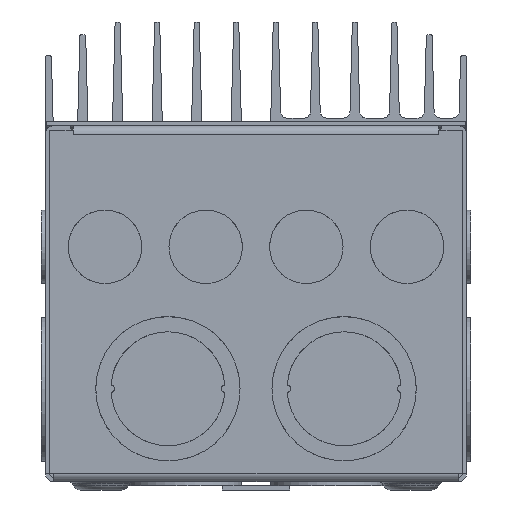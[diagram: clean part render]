
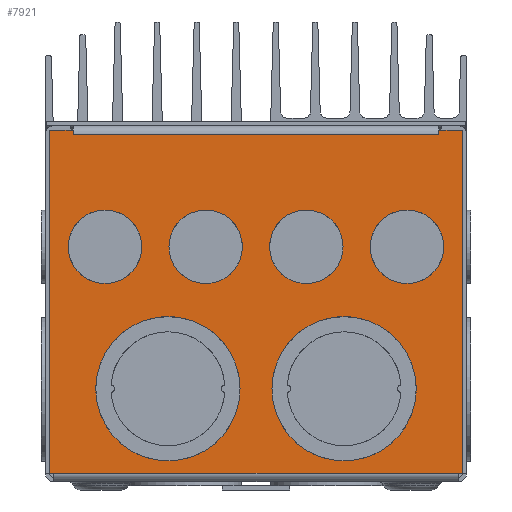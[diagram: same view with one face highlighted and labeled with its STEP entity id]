
A CAD part, front view. The second image highlights one B-rep face of the part: STEP entity #7921.
In plain terms, the highlighted planar face has unit normal (0, -1, 0).
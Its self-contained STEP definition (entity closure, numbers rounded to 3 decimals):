
#116=PLANE('',#8573);
#414=CIRCLE('',#8574,21.844);
#415=CIRCLE('',#8575,21.844);
#416=CIRCLE('',#8576,11.113);
#417=CIRCLE('',#8577,11.113);
#418=CIRCLE('',#8578,11.113);
#419=CIRCLE('',#8579,11.113);
#1165=ORIENTED_EDGE('',*,*,#3413,.F.);
#1166=ORIENTED_EDGE('',*,*,#3414,.F.);
#1167=ORIENTED_EDGE('',*,*,#3415,.F.);
#1168=ORIENTED_EDGE('',*,*,#3416,.T.);
#1169=ORIENTED_EDGE('',*,*,#3417,.T.);
#1170=ORIENTED_EDGE('',*,*,#3418,.T.);
#1171=ORIENTED_EDGE('',*,*,#3419,.T.);
#1172=ORIENTED_EDGE('',*,*,#3420,.T.);
#1173=ORIENTED_EDGE('',*,*,#3421,.T.);
#1174=ORIENTED_EDGE('',*,*,#3422,.T.);
#1175=ORIENTED_EDGE('',*,*,#3423,.T.);
#1176=ORIENTED_EDGE('',*,*,#3424,.F.);
#1177=ORIENTED_EDGE('',*,*,#3425,.F.);
#1178=ORIENTED_EDGE('',*,*,#3426,.T.);
#1179=ORIENTED_EDGE('',*,*,#3427,.T.);
#1180=ORIENTED_EDGE('',*,*,#3428,.T.);
#1181=ORIENTED_EDGE('',*,*,#3429,.F.);
#1182=ORIENTED_EDGE('',*,*,#3430,.T.);
#3413=EDGE_CURVE('',#4540,#4540,#414,.T.);
#3414=EDGE_CURVE('',#4541,#4541,#415,.T.);
#3415=EDGE_CURVE('',#4542,#4543,#5219,.T.);
#3416=EDGE_CURVE('',#4542,#4544,#5220,.T.);
#3417=EDGE_CURVE('',#4544,#4545,#5221,.T.);
#3418=EDGE_CURVE('',#4545,#4546,#5222,.T.);
#3419=EDGE_CURVE('',#4546,#4547,#5223,.T.);
#3420=EDGE_CURVE('',#4547,#4548,#5224,.T.);
#3421=EDGE_CURVE('',#4548,#4549,#5225,.T.);
#3422=EDGE_CURVE('',#4549,#4550,#5226,.T.);
#3423=EDGE_CURVE('',#4550,#4551,#5227,.T.);
#3424=EDGE_CURVE('',#4552,#4551,#5228,.T.);
#3425=EDGE_CURVE('',#4553,#4552,#5229,.T.);
#3426=EDGE_CURVE('',#4553,#4543,#5230,.T.);
#3427=EDGE_CURVE('',#4554,#4554,#416,.T.);
#3428=EDGE_CURVE('',#4555,#4555,#417,.T.);
#3429=EDGE_CURVE('',#4556,#4556,#418,.T.);
#3430=EDGE_CURVE('',#4557,#4557,#419,.T.);
#4540=VERTEX_POINT('',#12734);
#4541=VERTEX_POINT('',#12736);
#4542=VERTEX_POINT('',#12738);
#4543=VERTEX_POINT('',#12739);
#4544=VERTEX_POINT('',#12741);
#4545=VERTEX_POINT('',#12743);
#4546=VERTEX_POINT('',#12745);
#4547=VERTEX_POINT('',#12747);
#4548=VERTEX_POINT('',#12749);
#4549=VERTEX_POINT('',#12751);
#4550=VERTEX_POINT('',#12753);
#4551=VERTEX_POINT('',#12755);
#4552=VERTEX_POINT('',#12757);
#4553=VERTEX_POINT('',#12759);
#4554=VERTEX_POINT('',#12762);
#4555=VERTEX_POINT('',#12764);
#4556=VERTEX_POINT('',#12766);
#4557=VERTEX_POINT('',#12768);
#5219=LINE('',#12737,#5826);
#5220=LINE('',#12740,#5827);
#5221=LINE('',#12742,#5828);
#5222=LINE('',#12744,#5829);
#5223=LINE('',#12746,#5830);
#5224=LINE('',#12748,#5831);
#5225=LINE('',#12750,#5832);
#5226=LINE('',#12752,#5833);
#5227=LINE('',#12754,#5834);
#5228=LINE('',#12756,#5835);
#5229=LINE('',#12758,#5836);
#5230=LINE('',#12760,#5837);
#5826=VECTOR('',#9895,1000.);
#5827=VECTOR('',#9896,1000.);
#5828=VECTOR('',#9897,1000.);
#5829=VECTOR('',#9898,1000.);
#5830=VECTOR('',#9899,1000.);
#5831=VECTOR('',#9900,1000.);
#5832=VECTOR('',#9901,1000.);
#5833=VECTOR('',#9902,1000.);
#5834=VECTOR('',#9903,1000.);
#5835=VECTOR('',#9904,1000.);
#5836=VECTOR('',#9905,1000.);
#5837=VECTOR('',#9906,1000.);
#6422=EDGE_LOOP('',(#1165));
#6423=EDGE_LOOP('',(#1166));
#6424=EDGE_LOOP('',(#1167,#1168,#1169,#1170,#1171,#1172,#1173,#1174,#1175,
#1176,#1177,#1178));
#6425=EDGE_LOOP('',(#1179));
#6426=EDGE_LOOP('',(#1180));
#6427=EDGE_LOOP('',(#1181));
#6428=EDGE_LOOP('',(#1182));
#7091=FACE_BOUND('',#6422,.T.);
#7092=FACE_BOUND('',#6423,.T.);
#7093=FACE_BOUND('',#6424,.T.);
#7094=FACE_BOUND('',#6425,.T.);
#7095=FACE_BOUND('',#6426,.T.);
#7096=FACE_BOUND('',#6427,.T.);
#7097=FACE_BOUND('',#6428,.T.);
#7921=ADVANCED_FACE('',(#7091,#7092,#7093,#7094,#7095,#7096,#7097),#116,
 .F.);
#8573=AXIS2_PLACEMENT_3D('',#12732,#9889,#9890);
#8574=AXIS2_PLACEMENT_3D('',#12733,#9891,#9892);
#8575=AXIS2_PLACEMENT_3D('',#12735,#9893,#9894);
#8576=AXIS2_PLACEMENT_3D('',#12761,#9907,#9908);
#8577=AXIS2_PLACEMENT_3D('',#12763,#9909,#9910);
#8578=AXIS2_PLACEMENT_3D('',#12765,#9911,#9912);
#8579=AXIS2_PLACEMENT_3D('',#12767,#9913,#9914);
#9889=DIRECTION('',(0.,1.,0.));
#9890=DIRECTION('',(0.,0.,1.));
#9891=DIRECTION('',(0.,-1.,0.));
#9892=DIRECTION('',(1.,0.,0.));
#9893=DIRECTION('',(0.,-1.,0.));
#9894=DIRECTION('',(1.,0.,0.));
#9895=DIRECTION('',(1.,0.,0.));
#9896=DIRECTION('',(0.,0.,1.));
#9897=DIRECTION('',(-1.,0.,0.));
#9898=DIRECTION('',(0.,0.,-1.));
#9899=DIRECTION('',(1.,0.,0.));
#9900=DIRECTION('',(1.,0.,0.));
#9901=DIRECTION('',(1.,0.,0.));
#9902=DIRECTION('',(0.,0.,1.));
#9903=DIRECTION('',(-1.,0.,0.));
#9904=DIRECTION('',(0.,0.,1.));
#9905=DIRECTION('',(1.,0.,0.));
#9906=DIRECTION('',(-1.,0.,0.));
#9907=DIRECTION('',(0.,1.,0.));
#9908=DIRECTION('',(1.,0.,0.));
#9909=DIRECTION('',(0.,1.,0.));
#9910=DIRECTION('',(1.,0.,0.));
#9911=DIRECTION('',(0.,-1.,0.));
#9912=DIRECTION('',(-1.,0.,0.));
#9913=DIRECTION('',(0.,1.,0.));
#9914=DIRECTION('',(1.,0.,0.));
#12732=CARTESIAN_POINT('',(62.484,-233.68,-1.327));
#12733=CARTESIAN_POINT('',(26.67,-233.68,25.578));
#12734=CARTESIAN_POINT('',(48.514,-233.68,25.578));
#12735=CARTESIAN_POINT('',(-26.67,-233.68,25.578));
#12736=CARTESIAN_POINT('',(-4.826,-233.68,25.578));
#12737=CARTESIAN_POINT('',(55.37,-233.68,102.667));
#12738=CARTESIAN_POINT('',(-55.372,-233.68,102.667));
#12739=CARTESIAN_POINT('',(-55.37,-233.68,102.667));
#12740=CARTESIAN_POINT('',(-55.372,-233.68,102.667));
#12741=CARTESIAN_POINT('',(-55.372,-233.68,103.937));
#12742=CARTESIAN_POINT('',(62.484,-233.68,103.937));
#12743=CARTESIAN_POINT('',(-62.482,-233.68,103.937));
#12744=CARTESIAN_POINT('',(-62.482,-233.68,-1.327));
#12745=CARTESIAN_POINT('',(-62.482,-233.68,0.));
#12746=CARTESIAN_POINT('',(-62.484,-233.68,0.));
#12747=CARTESIAN_POINT('',(-61.214,-233.68,0.));
#12748=CARTESIAN_POINT('',(-62.484,-233.68,0.));
#12749=CARTESIAN_POINT('',(61.214,-233.68,0.));
#12750=CARTESIAN_POINT('',(-62.484,-233.68,0.));
#12751=CARTESIAN_POINT('',(62.482,-233.68,0.));
#12752=CARTESIAN_POINT('',(62.482,-233.68,-1.327));
#12753=CARTESIAN_POINT('',(62.482,-233.68,103.937));
#12754=CARTESIAN_POINT('',(62.484,-233.68,103.937));
#12755=CARTESIAN_POINT('',(55.372,-233.68,103.937));
#12756=CARTESIAN_POINT('',(55.372,-233.68,102.667));
#12757=CARTESIAN_POINT('',(55.372,-233.68,102.667));
#12758=CARTESIAN_POINT('',(55.37,-233.68,102.667));
#12759=CARTESIAN_POINT('',(55.37,-233.68,102.667));
#12760=CARTESIAN_POINT('',(55.37,-233.68,102.667));
#12761=CARTESIAN_POINT('',(-45.72,-233.68,68.58));
#12762=CARTESIAN_POINT('',(-34.608,-233.68,68.58));
#12763=CARTESIAN_POINT('',(-15.24,-233.68,68.58));
#12764=CARTESIAN_POINT('',(-4.128,-233.68,68.58));
#12765=CARTESIAN_POINT('',(15.24,-233.68,68.58));
#12766=CARTESIAN_POINT('',(4.127,-233.68,68.58));
#12767=CARTESIAN_POINT('',(45.72,-233.68,68.58));
#12768=CARTESIAN_POINT('',(56.833,-233.68,68.58));
